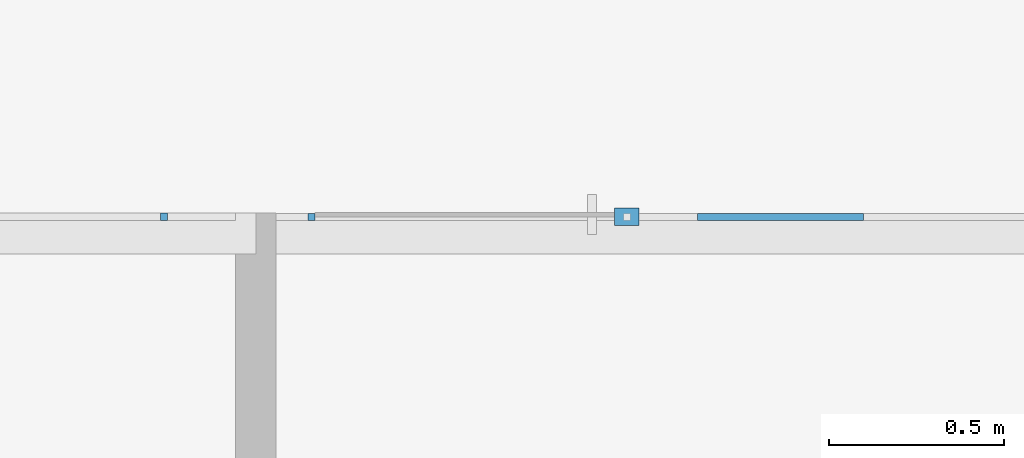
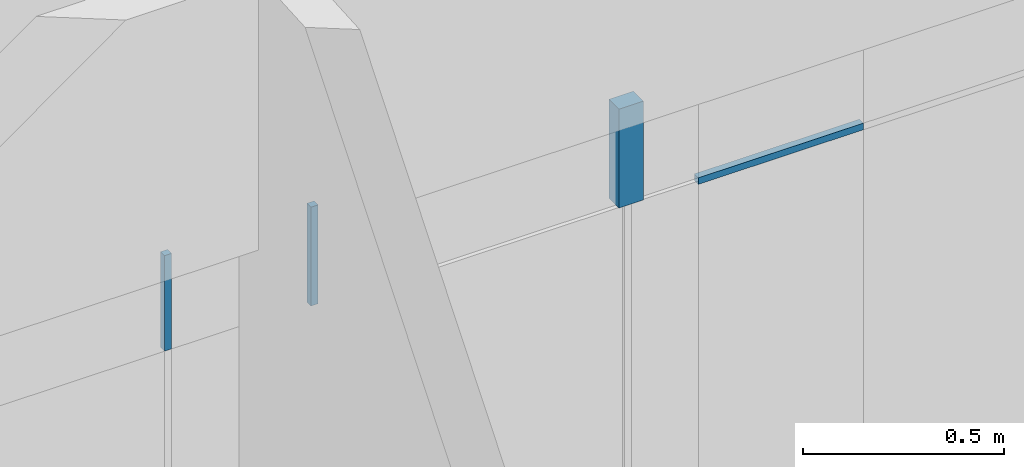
# One storey, part 9 of 46: 4 members, 2 elements without a shape of their own.
"""IFC2X3 building model written with IfcOpenShell, lengths in millimetres."""

from ifc_helpers import new_model, entity, si_unit, converted_unit, derived_unit, direction, frame, origin, origin_2d_with_axis, place, context, subcontext, project, spatial, rectangle, extrude, source, transform, mapped, material, type_object, type_shapes, element, aggregate, save


model = new_model("IFC2X3")

# Units and contexts
model_context = context("Model", 3, precision=0.01, world=origin(), true_north=direction((6.12303176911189e-17, 1.0)))
body_context = subcontext(model_context, "Body", "Model", "MODEL_VIEW")
ifc_project = project(units=[si_unit("LENGTHUNIT", "METRE", prefix="MILLI"), si_unit("AREAUNIT", "SQUARE_METRE"), si_unit("VOLUMEUNIT", "CUBIC_METRE"), converted_unit("PLANEANGLEUNIT", "DEGREE", entity("IfcRatioMeasure", 0.0174532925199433), si_unit("PLANEANGLEUNIT", "RADIAN"), dimensions=[0, 0, 0, 0, 0, 0, 0]), si_unit("MASSUNIT", "GRAM", prefix="KILO"), derived_unit("MASSDENSITYUNIT", [(si_unit("MASSUNIT", "GRAM", prefix="KILO"), 1), (si_unit("LENGTHUNIT", "METRE"), -3)]), si_unit("TIMEUNIT", "SECOND"), si_unit("FREQUENCYUNIT", "HERTZ"), si_unit("THERMODYNAMICTEMPERATUREUNIT", "DEGREE_CELSIUS"), derived_unit("THERMALTRANSMITTANCEUNIT", [(si_unit("MASSUNIT", "GRAM", prefix="KILO"), 1), (si_unit("THERMODYNAMICTEMPERATUREUNIT", "KELVIN"), -1), (si_unit("TIMEUNIT", "SECOND"), -3)]), derived_unit("VOLUMETRICFLOWRATEUNIT", [(si_unit("LENGTHUNIT", "METRE"), 3), (si_unit("TIMEUNIT", "SECOND"), -1)]), si_unit("ELECTRICCURRENTUNIT", "AMPERE"), si_unit("ELECTRICVOLTAGEUNIT", "VOLT"), si_unit("POWERUNIT", "WATT"), si_unit("FORCEUNIT", "NEWTON", prefix="KILO"), si_unit("ILLUMINANCEUNIT", "LUX"), si_unit("LUMINOUSFLUXUNIT", "LUMEN"), si_unit("LUMINOUSINTENSITYUNIT", "CANDELA"), derived_unit("USERDEFINED", [(si_unit("MASSUNIT", "GRAM", prefix="KILO"), -1), (si_unit("LENGTHUNIT", "METRE"), -2), (si_unit("TIMEUNIT", "SECOND"), 3), (si_unit("LUMINOUSFLUXUNIT", "LUMEN"), 1)]), derived_unit("LINEARVELOCITYUNIT", [(si_unit("LENGTHUNIT", "METRE"), 1), (si_unit("TIMEUNIT", "SECOND"), -1)]), si_unit("PRESSUREUNIT", "PASCAL"), derived_unit("USERDEFINED", [(si_unit("LENGTHUNIT", "METRE"), -2), (si_unit("MASSUNIT", "GRAM", prefix="KILO"), 1), (si_unit("TIMEUNIT", "SECOND"), -2)])], contexts=[model_context])

# Site, building, storey
site_placement = place(None, frame((-151.875543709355, 2715.0, 0.0)))
site = spatial("IfcSite", under=ifc_project, at=site_placement, Name="Surface", CompositionType="ELEMENT")
building_placement = place(site_placement, origin())
building = spatial("IfcBuilding", under=site, at=building_placement, CompositionType="ELEMENT")
storey_placement = place(building_placement, frame((0.0, 0.0, 10060.0)))
storey = spatial("IfcBuildingStorey", under=building, at=storey_placement, Name="4 korrus", CompositionType="ELEMENT", Elevation=10060.0000000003)

# Curtain wall, member
curtain_wall_type_1 = type_object("IfcCurtainWallType", Name="Curtain Wall:Klaassein KLS-26", PredefinedType="NOTDEFINED")
curtain_wall_1_placement = place(storey_placement, frame((0.0, 0.0, -10060.0)))
curtain_wall_1 = element("IfcCurtainWall", 1, at=curtain_wall_1_placement, inside=storey, type_object=curtain_wall_type_1, Name="Curtain Wall:Klaassein KLS-26", ObjectType="Curtain Wall:Klaassein KLS-26")
ifc_material_1 = material(Name="__Uks_hele tamm")
member_type_1 = type_object("IfcMemberType", Name="20 x 20mm", PredefinedType="MEMBER")
shared_shape_1 = source(origin(), body_context, "Body", "SweptSolid", [
    extrude(rectangle(XDim=20.0, YDim=20.0, at=origin_2d_with_axis()), frame((0.0, 0.0, -290.0), z_axis=(0.0, 0.0, 1.0), x_axis=(0.0, -1.0, 0.0)), (0.0, 0.0, 1.0), 290.0),
])
type_shapes(member_type_1, [shared_shape_1])
member_1_placement = place(storey_placement, frame((15599.5647267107, 4355.19562687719, 2110.0), z_axis=(0.0, 0.0, -1.0), x_axis=(1.0, 0.0, 0.0)))
member_1 = element("IfcMember", 2, at=member_1_placement, type_object=member_type_1, material=ifc_material_1, Name="Rectangular Mullion:20 x 20mm", ObjectType="20 x 20mm", context=body_context, shape_type="MappedRepresentation", body=[
    mapped(shared_shape_1, transform((0.0, 0.0, 0.0), scale=1.0)),
])
aggregate(curtain_wall_1, [member_1])

# Curtain wall, members
curtain_wall_type_2 = type_object("IfcCurtainWallType", Name="Curtain Wall:Klaassein KLS-27", PredefinedType="NOTDEFINED")
curtain_wall_2_placement = place(storey_placement, frame((0.0, 0.0, -10060.0)))
curtain_wall_2 = element("IfcCurtainWall", 3, at=curtain_wall_2_placement, inside=storey, type_object=curtain_wall_type_2, Name="Curtain Wall:Klaassein KLS-27", ObjectType="Curtain Wall:Klaassein KLS-27")
member_type_2 = type_object("IfcMemberType", Name="20 x 20mm", PredefinedType="MEMBER")
shared_shape_2 = source(origin(), body_context, "Body", "SweptSolid", [
    extrude(rectangle(XDim=20.0, YDim=20.0, at=origin_2d_with_axis()), frame((0.0, 0.0, -300.0), z_axis=(0.0, 0.0, 1.0), x_axis=(0.0, -1.0, 0.0)), (0.0, 0.0, 1.0), 299.999999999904),
])
type_shapes(member_type_2, [shared_shape_2])
member_2_placement = place(storey_placement, frame((16019.5647264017, 4355.04493399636, 2100.0), z_axis=(0.0, 0.0, -1.0), x_axis=(1.0, 0.0, 0.0)))
member_2 = element("IfcMember", 4, at=member_2_placement, type_object=member_type_2, material=ifc_material_1, Name="Rectangular Mullion:20 x 20mm", ObjectType="20 x 20mm", context=body_context, shape_type="MappedRepresentation", body=[
    mapped(shared_shape_2, transform((0.0, 0.0, 0.0), scale=1.0)),
])
member_type_3 = type_object("IfcMemberType", Name="20 x 20mm", PredefinedType="MEMBER")
shared_shape_3 = source(origin(), body_context, "Body", "SweptSolid", [
    extrude(rectangle(XDim=20.0, YDim=20.0, at=origin_2d_with_axis()), frame((0.0, 0.0, -473.855383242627), z_axis=(0.0, 0.0, 1.0), x_axis=(0.0, -1.0, 0.0)), (0.0, 0.0, 1.0), 473.855383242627),
])
type_shapes(member_type_3, [shared_shape_3])
member_3_placement = place(storey_placement, frame((17594.7035525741, 4355.04493399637, 2090.0), z_axis=(1.0, 0.0, 0.0), x_axis=(0.0, 0.0, 1.0)))
member_3 = element("IfcMember", 5, at=member_3_placement, type_object=member_type_3, material=ifc_material_1, Name="Rectangular Mullion:20 x 20mm", ObjectType="20 x 20mm", context=body_context, shape_type="MappedRepresentation", body=[
    mapped(shared_shape_3, transform((0.0, 0.0, 0.0), scale=1.0)),
])
ifc_material_2 = material(Name="Metal - Aluminium")
member_type_4 = type_object("IfcMemberType", Name="25 x 50mm", PredefinedType="MEMBER")
shared_shape_4 = source(origin(), body_context, "Body", "SweptSolid", [
    extrude(rectangle(XDim=50.0, YDim=70.0, at=origin_2d_with_axis()), frame((0.0, 0.0, -300.0), z_axis=(0.0, 0.0, 1.0), x_axis=(0.0, -1.0, 0.0)), (0.0, 0.0, 1.0), 299.999999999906),
])
type_shapes(member_type_4, [shared_shape_4])
member_4_placement = place(storey_placement, frame((16919.5647264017, 4355.04493399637, 2100.0), z_axis=(0.0, 0.0, -1.0), x_axis=(1.0, 0.0, 0.0)))
member_4 = element("IfcMember", 6, at=member_4_placement, type_object=member_type_4, material=ifc_material_2, Name="Rectangular Mullion:25 x 50mm", ObjectType="25 x 50mm", context=body_context, shape_type="MappedRepresentation", body=[
    mapped(shared_shape_4, transform((0.0, 0.0, 0.0), scale=1.0)),
])
aggregate(curtain_wall_2, [member_2, member_3, member_4])

save(model, "model.ifc")
